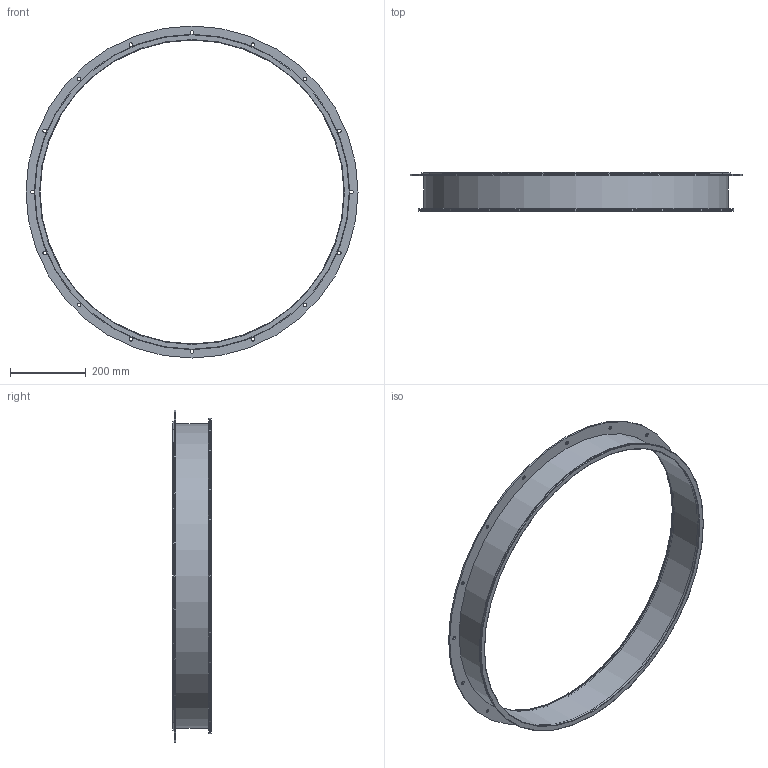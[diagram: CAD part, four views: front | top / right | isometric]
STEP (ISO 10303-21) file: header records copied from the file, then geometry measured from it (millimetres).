
FILE_DESCRIPTION(/* description */ (''),/* implementation_level */ '2;1');
FILE_NAME(/* name */ 'METU_EA115-41B_800_L100.stp',/* time_stamp */ '2018-10-10T16:31:19+02:00',/* author */ (''),/* organization */ (''),/* preprocessor_version */ 'ST-DEVELOPER v11',/* originating_system */ 'SIEMENS UGS NX 6.0',/* authorisation */ '');
FILE_SCHEMA (('CONFIG_CONTROL_DESIGN'));
Length unit declared in the file: millimetre
Products named in the file (1): garsCF17deah
Bounding box: 874 x 101.5 x 874 mm (x, y, z)
Volume: 977321.3 mm3; surface area: 883335.4 mm2
Topology: 3 solids, 3 shells, 40 faces, 109 edges, 78 vertices
Faces by surface type: cylinder 25, plane 9, torus 5, cone 1
Full cylindrical faces by diameter (mm): 9.5 x16, 800 x2, 802.4 x2, 804 x1, 812.4 x2, 830 x1, 874 x1
Entity records: 1122 total; most frequent: DIRECTION 194, CARTESIAN_POINT 153, FACE_BOUND 112, EDGE_LOOP 112, ORIENTED_EDGE 112, AXIS2_PLACEMENT_3D 97, VERTEX_POINT 56, EDGE_CURVE 56
